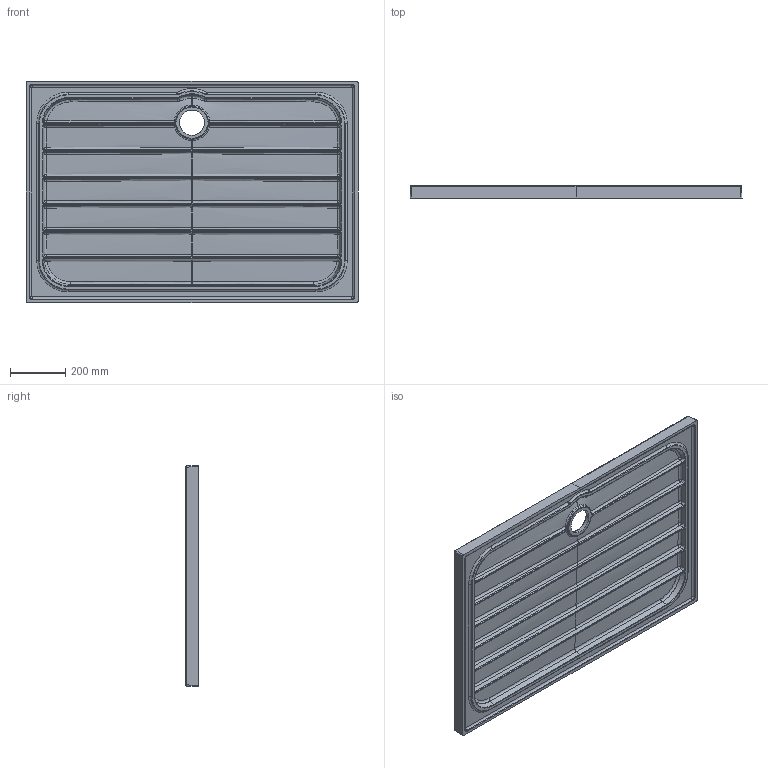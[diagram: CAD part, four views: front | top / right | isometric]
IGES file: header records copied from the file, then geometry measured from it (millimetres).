
Start section: START RECORD GO HERE.
Global section: file name: 3D_1084.igs; native system: DASSAULT SYSTEMES CATIA V5 R19 - www.3ds.com; preprocessor: CATIA Version 5 Release 19 SP 5 ; author: Luca; organization: DESKTOP-V7SON24; date: 20221025.094837; units: millimetre
Bounding box: 1200.14 x 45 x 800.14 mm (x, y, z)
Surface area: 2368174.9 mm2 (no closed solid volume)
Topology: 0 solids, 0 shells, 994 faces, 4638 edges, 4618 vertices
Faces by surface type: bspline 868, revolution 108, plane 18
